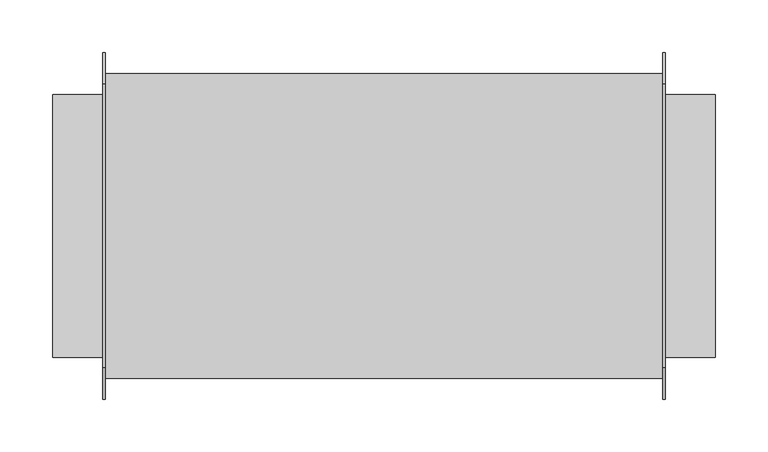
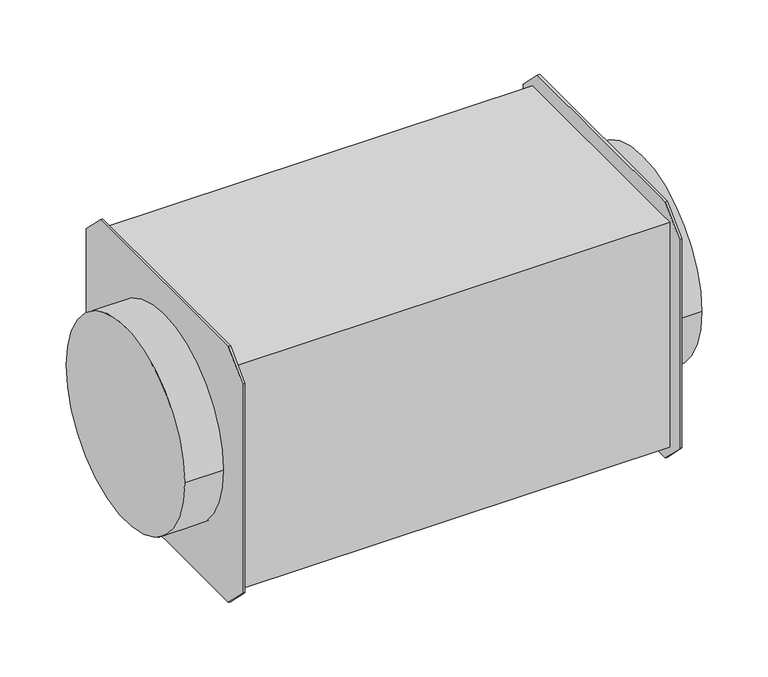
"""IFC4 building model written with IfcOpenShell, lengths in millimetres: unitary equipment geometry, 140_VAV_変風量ユニット_丸ダクト用 : 変風量ユニット_丸ダクト用."""

from ifc_helpers import new_model, si_unit, point, frame, origin, origin_2d, place, context, project, spatial, polyline, circle_curve, trimmed, segment, composite_curve, outline, extrude, source, transform, mapped, element, save


def unitary_equipment_d8fa24c1(model_context):
    return source(origin(), model_context, "Body", "SweptSolid", [
        extrude(outline(polyline([(135.0, -165.0), (-135.0, -165.0), (-165.0, -135.0), (-165.0, 135.0), (-135.0, 165.0), (135.0, 165.0), (165.0, 135.0), (165.0, -135.0), (135.0, -165.0)])), frame((265.0, 0.0, 0.0), z_axis=(1.0, 0.0, 0.0), x_axis=(0.0, 1.0, 0.0)), (0.0, 0.0, 1.0), 2.5),
        extrude(outline(polyline([(135.0, -165.0), (-135.0, -165.0), (-165.0, -135.0), (-165.0, 135.0), (-135.0, 165.0), (135.0, 165.0), (165.0, 135.0), (165.0, -135.0), (135.0, -165.0)])), frame((-267.5, 0.0, 0.0), z_axis=(1.0, 0.0, 0.0), x_axis=(0.0, 1.0, 0.0)), (0.0, 0.0, 1.0), 2.5),
        extrude(outline(composite_curve([segment(trimmed(circle_curve(origin_2d(), 125.0), [point((125.0, 0.0))], [point((-125.0, 0.0))], False, "CARTESIAN"), True, "CONTINUOUS"), segment(trimmed(circle_curve(origin_2d(), 125.0), [point((-125.0, 0.0))], [point((125.0, 0.0))], False, "CARTESIAN"), True, "CONTINUOUS")], self_intersect=False)), frame((265.0, 0.0, 0.0), z_axis=(1.0, 0.0, 0.0), x_axis=(0.0, 1.0, 0.0)), (0.0, 0.0, 1.0), 50.0),
        extrude(outline(composite_curve([segment(trimmed(circle_curve(origin_2d(), 125.0), [point((125.0, 0.0))], [point((-125.0, 0.0))], False, "CARTESIAN"), True, "CONTINUOUS"), segment(trimmed(circle_curve(origin_2d(), 125.0), [point((-125.0, 0.0))], [point((125.0, 0.0))], False, "CARTESIAN"), True, "CONTINUOUS")], self_intersect=False)), frame((-315.0, 0.0, 0.0), z_axis=(1.0, 0.0, 0.0), x_axis=(0.0, 1.0, 0.0)), (0.0, 0.0, 1.0), 50.0),
        extrude(outline(polyline([(265.0, -145.0), (-265.0, -145.0), (-265.0, 145.0), (265.0, 145.0), (265.0, -145.0)])), frame((0.0, 0.0, -145.0), z_axis=(0.0, 0.0, 1.0), x_axis=(1.0, 0.0, 0.0)), (0.0, 0.0, 1.0), 290.0),
    ])


if __name__ == "__main__":
    model = new_model("IFC4")
    model_context = context("Model", 3, world=origin())
    ifc_project = project(units=[si_unit("LENGTHUNIT", "METRE", prefix="MILLI")], contexts=[model_context])
    site = spatial("IfcSite", under=ifc_project)
    building = spatial("IfcBuilding", under=site)
    placement = place(None, origin())
    unitary_equipment_shape = unitary_equipment_d8fa24c1(model_context)
    element("IfcUnitaryEquipment", 1, ObjectType="140_VAV_変風量ユニット_丸ダクト用 : 変風量ユニット_丸ダクト用", at=placement, inside=building, context=model_context, shape_type="MappedRepresentation", body=[
        mapped(unitary_equipment_shape, transform((0.0, 0.0, 0.0), x_axis=(1.0, 0.0, 0.0), y_axis=(0.0, 1.0, 0.0), z_axis=(0.0, 0.0, 1.0))),
    ])
    save(model, "model.ifc")
